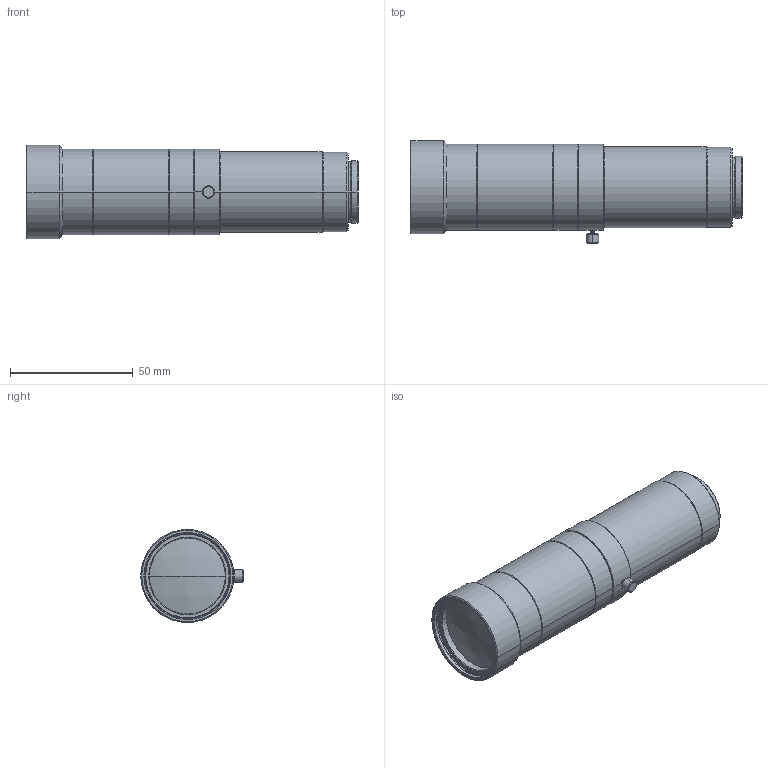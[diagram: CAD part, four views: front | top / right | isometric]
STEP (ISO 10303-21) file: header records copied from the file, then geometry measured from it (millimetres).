
FILE_DESCRIPTION (( 'STEP AP203' ), '1' );
FILE_NAME ('VS-THV1.5-110_S.STEP', '2020-04-26T11:05:06', ( '' ), ( '' ), 'SwSTEP 2.0', 'SolidWorks 2018', '' );
FILE_SCHEMA (( 'CONFIG_CONTROL_DESIGN' ));
Length unit declared in the file: millimetre
Products named in the file (1): VS-THV1.5-110_S
Bounding box: 135.42 x 41.8 x 38 mm (x, y, z)
Volume: 90715.8 mm3; surface area: 23062.3 mm2
Topology: 1 solids, 1 shells, 139 faces, 279 edges, 160 vertices
Faces by surface type: cone 72, cylinder 44, plane 19, sphere 4
Entity records: 3690 total; most frequent: DIRECTION 713, CARTESIAN_POINT 613, ORIENTED_EDGE 558, AXIS2_PLACEMENT_3D 298, EDGE_CURVE 279, VERTEX_POINT 160, CIRCLE 158, EDGE_LOOP 157
